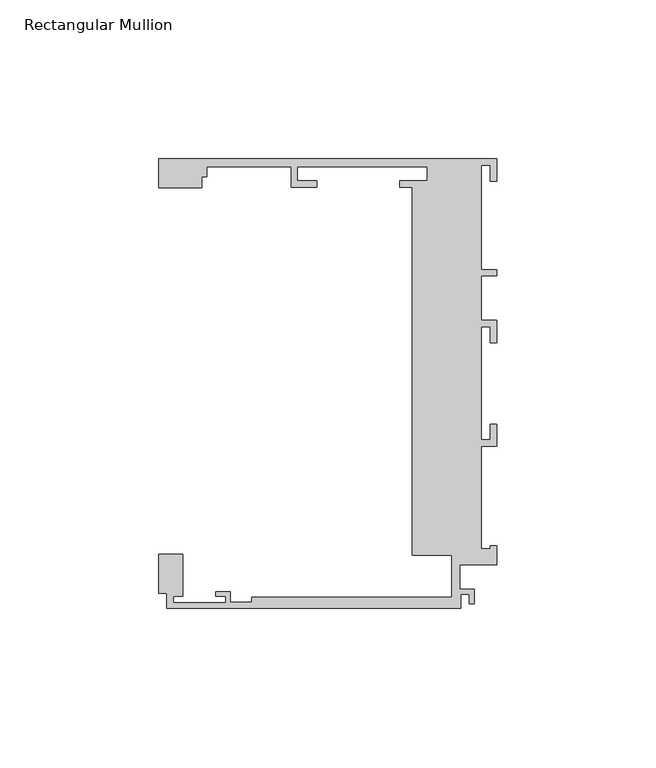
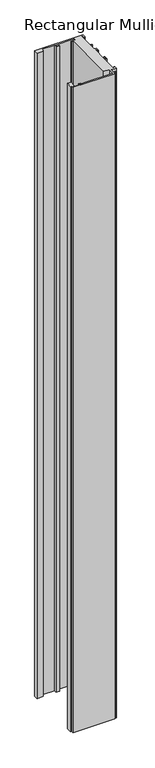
"""IFC4 building model written with IfcOpenShell, lengths in millimetres: member geometry, Rectangular Mullion : Danpal_K12_End-Mullion_B1."""

from ifc_helpers import new_model, si_unit, frame, origin, place, context, project, spatial, polyline, outline, extrude, source, transform, mapped, element, save


def rectangular_mullion_ff423d24(model_context):
    return source(origin(), model_context, "Body", "SweptSolid", [
        extrude(outline(polyline([(-26.6209612, 117.8676658), (-30.6, 117.8676658), (-30.6, 119.8676658), (-21.835, 119.8676658), (-21.835, 124.2676658), (-62.7350275, 124.2676658), (-62.7350275, 119.8676658), (-56.7350275, 119.8676658), (-56.7350275, 117.8676658), (-64.7350275, 117.8676658), (-64.7350275, 124.2676658), (-91.2900275, 124.2676658), (-91.2900275, 121.0676175), (-92.8228167, 121.0676175), (-92.8228167, 117.6986749), (-106.4117426, 117.6986749), (-106.4117426, 126.7676657), (0.0, 126.7676657), (0.0, 119.7676657), (-2.0, 119.7676657), (-2.0, 124.7676657), (-4.8, 124.7676657), (-4.8, 91.8676485), (0.0, 91.8676485), (0.0, 89.8676485), (-4.8, 89.8676485), (-4.8, 75.867683), (0.0, 75.867683), (0.0, 68.8676657), (-2.0, 68.8676657), (-2.0, 73.8676657), (-4.8, 73.8676657), (-4.8, 38.2443486), (-2.0, 38.2443486), (-2.0, 43.2443486), (0.0, 43.2443486), (0.0, 36.2443486), (-4.8, 36.2443486), (-4.8, 3.9448486), (-2.0, 3.9448486), (-2.0, 4.9448486), (0.0, 4.9448486), (0.0, -1.0551514), (-11.6055875, -1.0551514), (-11.6055875, -8.8006425), (-7.1518595, -8.8006425), (-7.1518595, -13.3051514), (-8.6518595, -13.3051514), (-8.6518595, -10.3006425), (-11.4019537, -10.3006425), (-11.4019537, -14.8051514), (-103.8999976, -14.8051514), (-103.8999976, -10.065304), (-106.4117426, -10.065304), (-106.4117426, 2.316674), (-98.8999976, 2.316674), (-98.8999976, -11.0051513), (-101.8999976, -11.0051513), (-101.8999976, -13.0051512), (-85.3999976, -13.0051512), (-85.3999976, -11.0051513), (-88.3999976, -11.0051513), (-88.3999976, -9.5051512), (-83.8999976, -9.5051512), (-83.8999976, -12.8051513), (-77.1531178, -12.8051513), (-77.1531178, -11.3051512), (-14.1055875, -11.3051512), (-14.1055875, 1.9446289), (-26.6209612, 1.9446289), (-26.6209612, 117.8676658)])), frame((0.0, 0.0, -1500.0), z_axis=(0.0, 0.0, 1.0), x_axis=(1.0, 0.0, 0.0)), (0.0, 0.0, 1.0), 1500.0),
    ])


if __name__ == "__main__":
    model = new_model("IFC4")
    model_context = context("Model", 3, world=origin())
    ifc_project = project(units=[si_unit("LENGTHUNIT", "METRE", prefix="MILLI")], contexts=[model_context])
    site = spatial("IfcSite", under=ifc_project)
    building = spatial("IfcBuilding", under=site)
    placement = place(None, origin())
    rectangular_mullion_shape = rectangular_mullion_ff423d24(model_context)
    element("IfcMember", 1, ObjectType="Rectangular Mullion : Danpal_K12_End-Mullion_B1", at=placement, inside=building, context=model_context, shape_type="MappedRepresentation", body=[
        mapped(rectangular_mullion_shape, transform((0.0, 0.0, 0.0), x_axis=(1.0, 0.0, 0.0), y_axis=(0.0, 1.0, 0.0), z_axis=(0.0, 0.0, 1.0))),
    ])
    save(model, "model.ifc")
